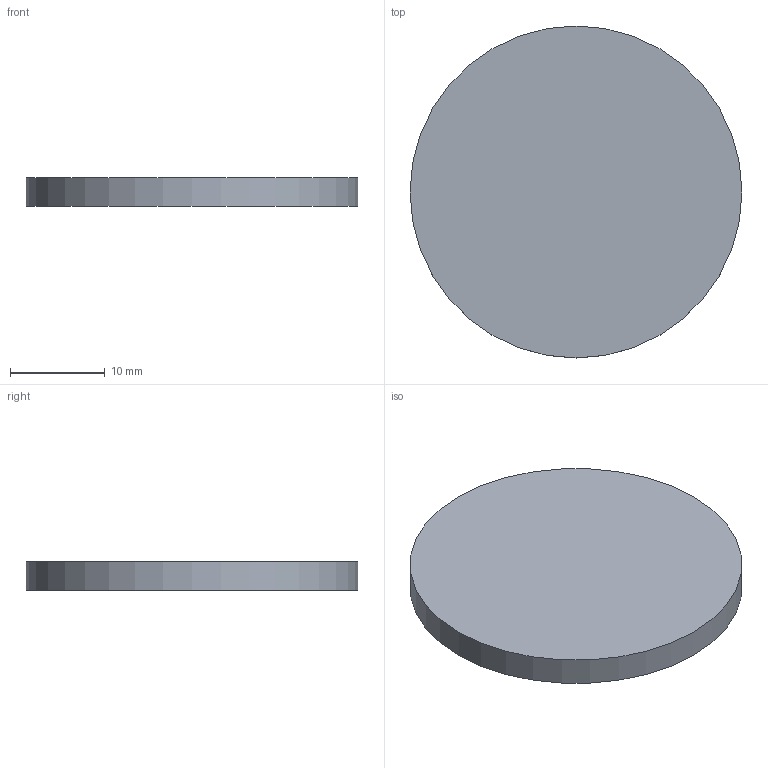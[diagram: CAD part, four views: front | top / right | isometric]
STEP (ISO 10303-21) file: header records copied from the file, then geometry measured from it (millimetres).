
FILE_DESCRIPTION(/* description */ (''),/* implementation_level */ '2;1');
FILE_NAME(/* name */ 'Pos130-Plaatwerk D= 3-S235JRG2-12st',/* time_stamp */ '2024-08-06T13:37:43+02:00',/* author */ (''),/* organization */ (''),/* preprocessor_version */ 'ST-DEVELOPER v16.5',/* originating_system */ 'HiCAD 2024 2901.2 Build 361',/* authorisation */ '');
FILE_SCHEMA (('AUTOMOTIVE_DESIGN { 1 0 10303 214 1 1 1 1 }'));
Length unit declared in the file: millimetre
Products named in the file (1): Pos130-Plaatwerk D= 3-S235JRG2-12st
Bounding box: 35 x 35 x 3 mm (x, y, z)
Volume: 2886.3 mm3; surface area: 2254.1 mm2
Topology: 1 solids, 1 shells, 3 faces, 3 edges, 2 vertices
Faces by surface type: plane 2, cylinder 1
Full cylindrical faces by diameter (mm): 35 x1
Entity records: 92 total; most frequent: DIRECTION 10, CARTESIAN_POINT 7, PRESENTATION_STYLE_ASSIGNMENT 5, COLOUR_RGB 5, AXIS2_PLACEMENT_3D 5, DRAUGHTING_PRE_DEFINED_CURVE_FONT 4, CURVE_STYLE 4, OVER_RIDING_STYLED_ITEM 4
